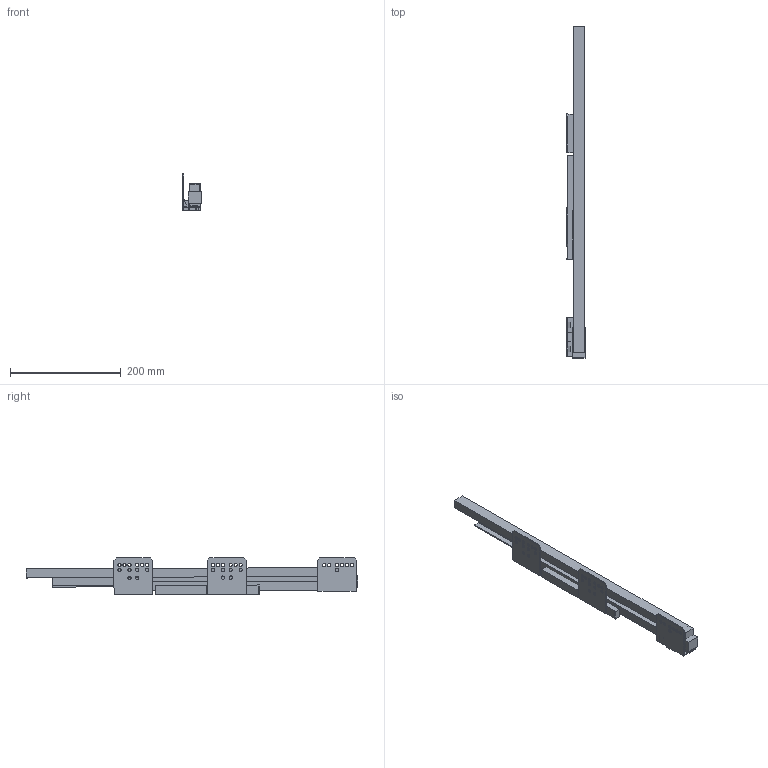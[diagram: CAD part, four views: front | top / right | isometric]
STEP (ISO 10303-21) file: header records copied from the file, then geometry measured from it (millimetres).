
FILE_DESCRIPTION (( 'STEP AP214' ), '1' );
FILE_NAME ('_IMOS Dynamic-XP VA 60kg NL600 LI.step', '2010-07-07T08:07:23', ( 'grass' ), ( '' ), 'SwSTEP 2.0', 'SolidWorks 2010', '' );
FILE_SCHEMA (( 'AUTOMOTIVE_DESIGN' ));
Length unit declared in the file: millimetre
Products named in the file (1): _IMOS Dynamic-XP VA 60kg NL600 LI
Bounding box: 32.79 x 599.89 x 66.67 mm (x, y, z)
Volume: 497288.3 mm3; surface area: 188039.9 mm2
Topology: 8 solids, 8 shells, 205 faces, 567 edges, 378 vertices
Faces by surface type: plane 141, cylinder 64
Entity records: 6754 total; most frequent: CARTESIAN_POINT 1151, ORIENTED_EDGE 1134, DIRECTION 1107, EDGE_CURVE 567, LINE 439, VECTOR 439, VERTEX_POINT 378, AXIS2_PLACEMENT_3D 334
